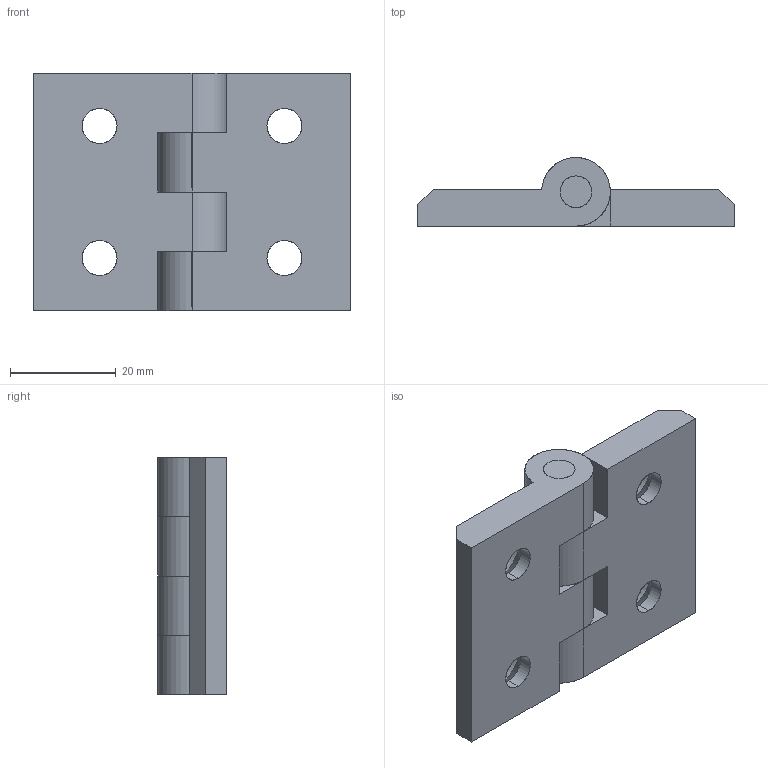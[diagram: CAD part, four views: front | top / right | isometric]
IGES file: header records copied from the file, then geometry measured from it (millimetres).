
Start section: SolidWorks IGES file using analytic representation for surfaces
Global section: file name: D:\LETROMEC CATALOGUE\Hinge\LIMA-HZC30X40-6\LIMA-HZC30X40.IGS; native system: SolidWorks 2013; preprocessor: SolidWorks 2013; author: User; date: 180315.205255; units: millimetre
Bounding box: 60 x 12.99 x 45 mm (x, y, z)
Surface area: 10256 mm2 (no closed solid volume)
Topology: 0 solids, 0 shells, 62 faces, 1080 edges, 1080 vertices
Faces by surface type: revolution 38, bspline 24
